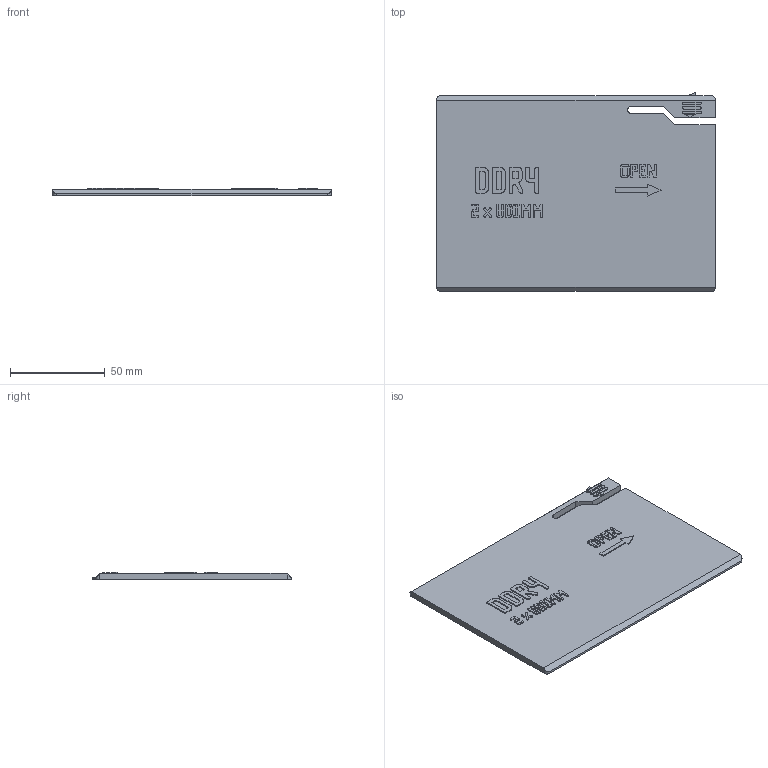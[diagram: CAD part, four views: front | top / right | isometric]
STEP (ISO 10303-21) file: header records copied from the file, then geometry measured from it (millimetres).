
FILE_DESCRIPTION(('Open CASCADE Model'),'2;1');
FILE_NAME('lid','2026-11-17T15:34:02',('Author'),('Open CASCADE'), 'Open CASCADE STEP processor 8.0','build123d','Unknown');
FILE_SCHEMA(('AUTOMOTIVE_DESIGN { 1 0 10303 214 1 1 1 1 }'));
Products named in the file (1): lid
Bounding box: 146.78 x 104.9 x 4.05 mm (x, y, z)
Volume: 50439.4 mm3; surface area: 31986.5 mm2
Topology: 1 solids, 1 shells, 1495 faces, 4399 edges, 2932 vertices
Faces by surface type: plane 1478, cylinder 17
Entity records: 103115 total; most frequent: CARTESIAN_POINT 20699, DIRECTION 13302, LINE 10233, VECTOR 10233, ORIENTED_EDGE 8798, PCURVE 8798, DEFINITIONAL_REPRESENTATION 8798, EDGE_CURVE 4399
